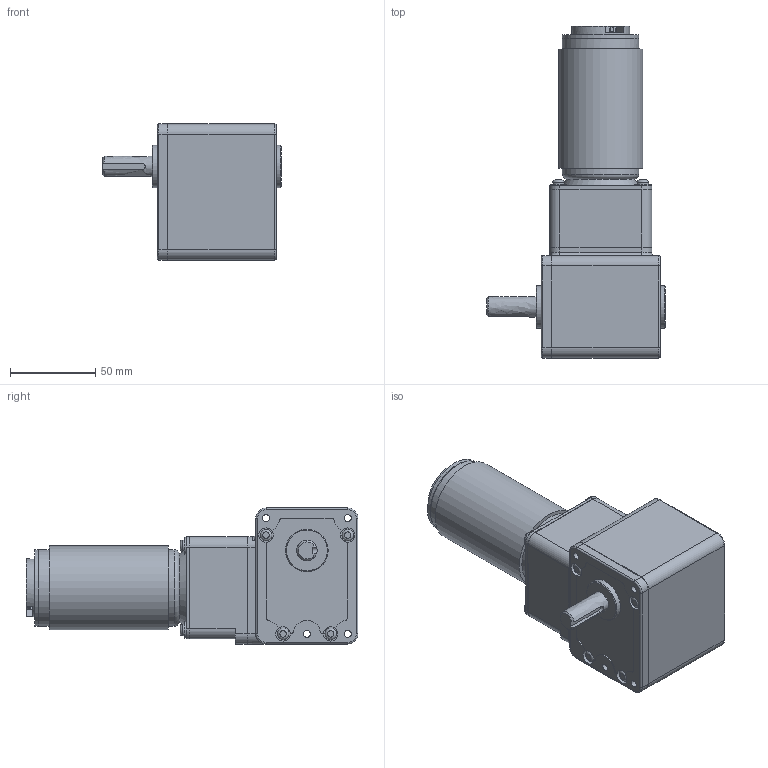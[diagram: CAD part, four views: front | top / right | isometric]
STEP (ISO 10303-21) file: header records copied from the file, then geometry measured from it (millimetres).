
FILE_DESCRIPTION((''),'2;1');
FILE_NAME('C:\Documents and Settings\SSEGAWA\デスクトップ\TP-4990A-SWR.STP','2013-07-29T17:49:02',('SSEGAWA'),(''),'Autodesk Inventor 2010','Autodesk Inventor 2010','');
FILE_SCHEMA(('CONFIG_CONTROL_DESIGN'));
Length unit declared in the file: millimetre
Products named in the file (1): tp_4990a_swr_Shrinkwrap_1
Bounding box: 105 x 195 x 80 mm (x, y, z)
Volume: 647516.6 mm3; surface area: 64998.1 mm2
Topology: 1 solids, 10 shells, 280 faces, 663 edges, 432 vertices
Faces by surface type: plane 115, cylinder 95, bspline 48, torus 18, cone 4
Full cylindrical faces by diameter (mm): 4 x1, 6 x1, 6.8 x8, 7 x3, 8.5 x4, 9 x1, 9.8 x4, 12 x1, 13 x1, 18 x2, 25 x1, 34 x1, 44.6 x1, 45 x2, 54 x1
Entity records: 8371 total; most frequent: CARTESIAN_POINT 1969, DIRECTION 1297, ORIENTED_EDGE 1132, EDGE_CURVE 566, AXIS2_PLACEMENT_3D 504, VERTEX_POINT 403, EDGE_LOOP 393, VECTOR 289
